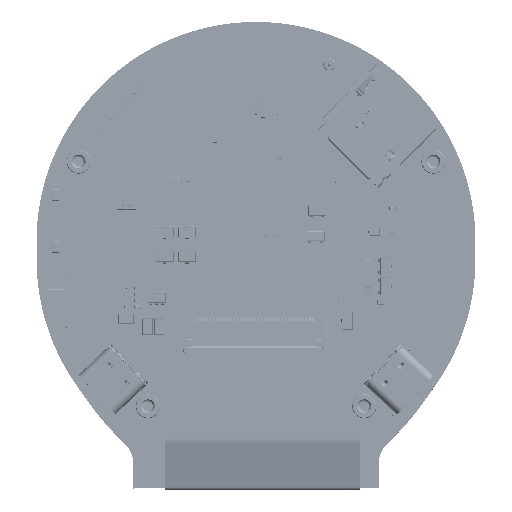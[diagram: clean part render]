
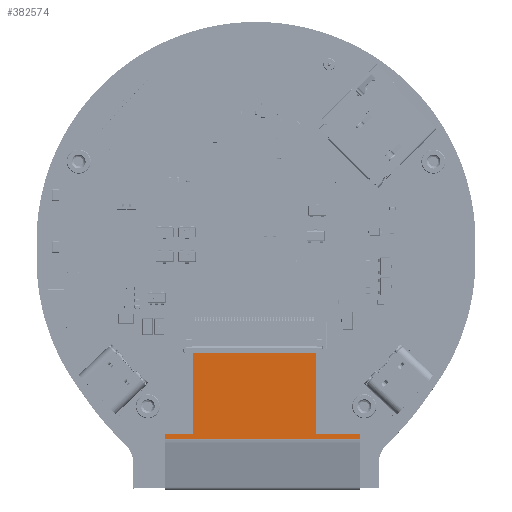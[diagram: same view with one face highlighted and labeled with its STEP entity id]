
A CAD part, top view. The second image highlights one B-rep face of the part: STEP entity #382574.
In plain terms, the highlighted planar face has unit normal (0, 0, 1).
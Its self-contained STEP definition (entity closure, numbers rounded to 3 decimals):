
#363939=DIRECTION('',(0.,-1.,0.));
#363940=VECTOR('',#363939,0.759);
#363941=CARTESIAN_POINT('',(2106.362,1903.282,4.85));
#363942=LINE('',#363941,#363940);
#364078=DIRECTION('',(0.,1.,0.));
#364079=VECTOR('',#364078,0.759);
#364080=CARTESIAN_POINT('',(2073.862,1902.523,4.85));
#364081=LINE('',#364080,#364079);
#364207=DIRECTION('',(-1.,0.,0.));
#364208=VECTOR('',#364207,4.68);
#364209=CARTESIAN_POINT('',(2078.542,1903.282,4.85));
#364210=LINE('',#364209,#364208);
#364214=DIRECTION('',(-1.,0.,0.));
#364215=VECTOR('',#364214,32.5);
#364216=CARTESIAN_POINT('',(2106.362,1902.523,4.85));
#364217=LINE('',#364216,#364215);
#364221=DIRECTION('',(0.,1.,0.));
#364222=VECTOR('',#364221,14.3);
#364223=CARTESIAN_POINT('',(2078.542,1903.282,4.85));
#364224=LINE('',#364223,#364222);
#364228=DIRECTION('',(1.,0.,0.));
#364229=VECTOR('',#364228,7.32);
#364230=CARTESIAN_POINT('',(2099.042,1903.282,4.85));
#364231=LINE('',#364230,#364229);
#364284=DIRECTION('',(1.,0.,0.));
#364285=VECTOR('',#364284,20.5);
#364286=CARTESIAN_POINT('',(2078.542,1917.582,4.85));
#364287=LINE('',#364286,#364285);
#364305=DIRECTION('',(0.,1.,0.));
#364306=VECTOR('',#364305,14.3);
#364307=CARTESIAN_POINT('',(2099.042,1903.282,4.85));
#364308=LINE('',#364307,#364306);
#382096=CARTESIAN_POINT('',(2078.542,1917.582,4.85));
#382097=CARTESIAN_POINT('',(2099.042,1917.582,4.85));
#382098=VERTEX_POINT('',#382096);
#382099=VERTEX_POINT('',#382097);
#382146=CARTESIAN_POINT('',(2106.362,1903.282,4.85));
#382147=VERTEX_POINT('',#382146);
#382148=CARTESIAN_POINT('',(2106.362,1902.523,4.85));
#382149=VERTEX_POINT('',#382148);
#382160=CARTESIAN_POINT('',(2099.042,1903.282,4.85));
#382162=VERTEX_POINT('',#382160);
#382194=CARTESIAN_POINT('',(2073.862,1902.523,4.85));
#382195=VERTEX_POINT('',#382194);
#382196=CARTESIAN_POINT('',(2073.862,1903.282,4.85));
#382197=VERTEX_POINT('',#382196);
#382198=CARTESIAN_POINT('',(2078.542,1903.282,4.85));
#382200=VERTEX_POINT('',#382198);
#382555=CARTESIAN_POINT('',(2089.062,1904.432,4.85));
#382556=DIRECTION('',(0.,0.,1.));
#382557=DIRECTION('',(1.,0.,0.));
#382558=AXIS2_PLACEMENT_3D('',#382555,#382556,#382557);
#382559=PLANE('',#382558);
#382561=ORIENTED_EDGE('',*,*,#382560,.T.);
#382562=ORIENTED_EDGE('',*,*,#382342,.T.);
#382563=ORIENTED_EDGE('',*,*,#382548,.F.);
#382564=ORIENTED_EDGE('',*,*,#382530,.T.);
#382566=ORIENTED_EDGE('',*,*,#382565,.T.);
#382568=ORIENTED_EDGE('',*,*,#382567,.F.);
#382570=ORIENTED_EDGE('',*,*,#382569,.T.);
#382571=ORIENTED_EDGE('',*,*,#382279,.T.);
#382572=EDGE_LOOP('',(#382561,#382562,#382563,#382564,#382566,#382568,#382570,
#382571));
#382573=FACE_OUTER_BOUND('',#382572,.F.);
#382574=ADVANCED_FACE('',(#382573),#382559,.T.);
#382279=EDGE_CURVE('',#382147,#382149,#363942,.T.);
#382342=EDGE_CURVE('',#382195,#382197,#364081,.T.);
#382530=EDGE_CURVE('',#382200,#382098,#364224,.T.);
#382548=EDGE_CURVE('',#382200,#382197,#364210,.T.);
#382560=EDGE_CURVE('',#382149,#382195,#364217,.T.);
#382565=EDGE_CURVE('',#382098,#382099,#364287,.T.);
#382567=EDGE_CURVE('',#382162,#382099,#364308,.T.);
#382569=EDGE_CURVE('',#382162,#382147,#364231,.T.);
